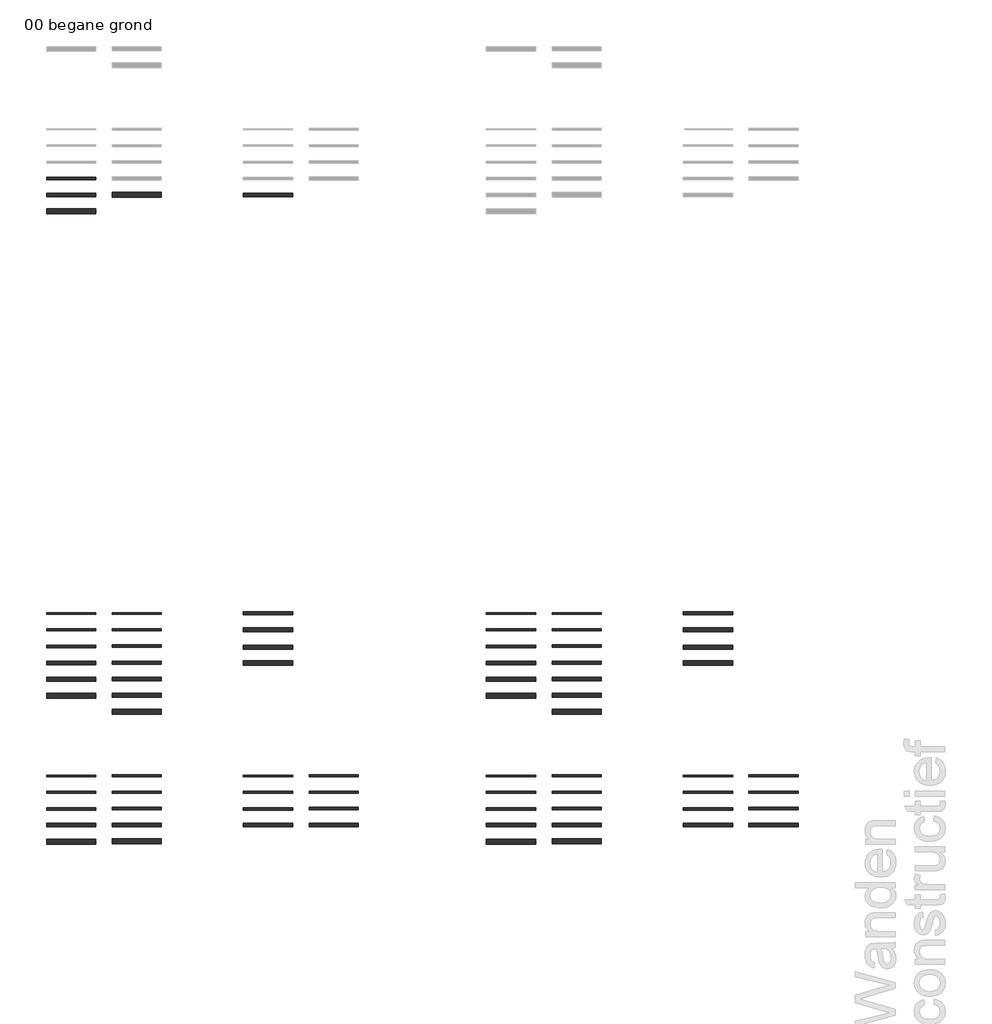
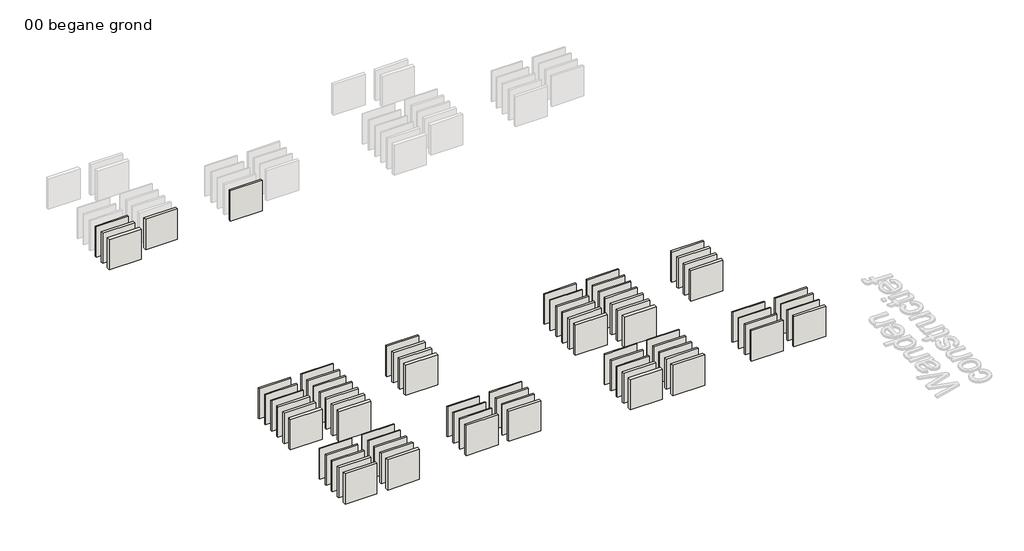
# One storey, part 1 of 4: 75 walls.
"""IFC4 building model written with IfcOpenShell, lengths in millimetres."""

import ifcopenshell
import ifcopenshell.guid

model = None  # the IFC model being written
_history = None  # IfcOwnerHistory: only IFC2X3 demands one
_inside = {}  # id of a spatial element -> (the spatial element, [elements in it])
_under = {}  # id of a project, library or spatial element -> (it, [spatial elements below it])
_declared = {}  # id of a project -> (the project, [libraries it declares])
_typed = {}  # id of a type object -> (the type object, [elements of that type])
_made_of = {}  # id of a material, layer set ... -> (it, [elements and type objects made of it])


def new_model(schema):
    """Start an empty IFC model of exactly this schema.

    Asked for "IFC4X3", IfcOpenShell would pick the latest addendum, in which some entities
    have other attributes; the version numbers below select the first issue.
    IFC2X3 requires an IfcOwnerHistory on every rooted entity: one is made here for all.
    """
    global model, _history
    if schema == "IFC4X3":
        model = ifcopenshell.file(schema_version=(4, 3, 0, 0))
    else:
        model = ifcopenshell.file(schema=schema)
    _inside.clear()
    _under.clear()
    _declared.clear()
    _typed.clear()
    _made_of.clear()
    _history = None
    if model.schema == "IFC2X3":
        org = make("IfcOrganization", Name="unknown")
        user = make(
            "IfcPersonAndOrganization",
            ThePerson=make("IfcPerson", FamilyName="unknown"),
            TheOrganization=org,
        )
        app = make(
            "IfcApplication",
            ApplicationDeveloper=org,
            Version="unknown",
            ApplicationFullName="unknown",
            ApplicationIdentifier="unknown",
        )
        _history = make(
            "IfcOwnerHistory",
            OwningUser=user,
            OwningApplication=app,
            ChangeAction="ADDED",
            CreationDate=0,
        )
    return model


def make(cls, **values):
    """One entity of the class cls with the attributes given. An attribute that is None is left unset."""
    return model.create_entity(
        cls, **{name: value for name, value in values.items() if value is not None}
    )


def rooted(cls, **values):
    """An entity with a GlobalId (a new one), such as an element, a storey or a relation."""
    return make(cls, GlobalId=ifcopenshell.guid.new(), OwnerHistory=_history, **values)


def si_unit(unit_type, name, prefix=None):
    """IfcSIUnit, for example si_unit("LENGTHUNIT", "METRE", prefix="MILLI")."""
    return make("IfcSIUnit", UnitType=unit_type, Prefix=prefix, Name=name)


def assignment(units):
    """IfcUnitAssignment: the units of a project."""
    return None if units is None else make("IfcUnitAssignment", Units=units)


def point(xyz):
    """IfcCartesianPoint."""
    return None if xyz is None else make("IfcCartesianPoint", Coordinates=xyz)


def direction(xyz):
    """IfcDirection."""
    return None if xyz is None else make("IfcDirection", DirectionRatios=xyz)


def frame(location, z_axis=None, x_axis=None):
    """IfcAxis2Placement3D, a coordinate frame: its origin and axes. An axis left out is left unset."""
    return make(
        "IfcAxis2Placement3D",
        Location=point(location),
        Axis=direction(z_axis),
        RefDirection=direction(x_axis),
    )


def origin():
    """The frame at (0, 0, 0) with its axes left unset."""
    return frame((0.0, 0.0, 0.0))


def origin_with_axes():
    """The frame at (0, 0, 0) with the z axis (0, 0, 1) and the x axis (1, 0, 0) written out."""
    return frame((0.0, 0.0, 0.0), z_axis=(0.0, 0.0, 1.0), x_axis=(1.0, 0.0, 0.0))


def place(relative_to, where):
    """IfcLocalPlacement: puts the frame where relative to a parent placement (None: the world)."""
    return make(
        "IfcLocalPlacement", PlacementRelTo=relative_to, RelativePlacement=where
    )


def context(
    kind, dimensions, precision=None, world=None, true_north=None, identifier=None
):
    """IfcGeometricRepresentationContext, for example the 3D "Model" context."""
    return make(
        "IfcGeometricRepresentationContext",
        ContextIdentifier=identifier,
        ContextType=kind,
        CoordinateSpaceDimension=dimensions,
        Precision=precision,
        WorldCoordinateSystem=world,
        TrueNorth=true_north,
    )


def project(units=None, contexts=None):
    """IfcProject with its units and contexts."""
    return rooted(
        "IfcProject",
        Name="project",
        RepresentationContexts=contexts,
        UnitsInContext=assignment(units),
    )


def spatial(cls, under=None, at=None, **own):
    """A site, building, storey or space (cls), placed at a placement, below another one or the project."""
    s = rooted(cls, ObjectPlacement=at, **own)
    if under is not None:
        _under.setdefault(under.id(), (under, []))[1].append(s)
    return s


def polyline(points):
    """IfcPolyline through the points."""
    return make("IfcPolyline", Points=[point(p) for p in points])


def outline(outer, holes=None, kind="AREA"):
    """IfcArbitraryClosedProfileDef: a profile drawn as a closed curve; with holes, ...WithVoids."""
    if holes is None:
        return make("IfcArbitraryClosedProfileDef", ProfileType=kind, OuterCurve=outer)
    return make(
        "IfcArbitraryProfileDefWithVoids",
        ProfileType=kind,
        OuterCurve=outer,
        InnerCurves=holes,
    )


def extrude(swept, where, along, depth):
    """IfcExtrudedAreaSolid: the profile swept, set in the frame where, extruded along a direction by depth."""
    return make(
        "IfcExtrudedAreaSolid",
        SweptArea=swept,
        Position=where,
        ExtrudedDirection=direction(along),
        Depth=depth,
    )


def shape(context_of_items, identifier, shape_type, items):
    """IfcShapeRepresentation: the items that make up one representation, for example the "Body"."""
    return make(
        "IfcShapeRepresentation",
        ContextOfItems=context_of_items,
        RepresentationIdentifier=identifier,
        RepresentationType=shape_type,
        Items=items,
    )


def made_of(thing, what):
    """Note that an element or type object is made of a material, layer set ...; save() writes the relation."""
    if what is not None:
        _made_of.setdefault(what.id(), (what, []))[1].append(thing)
    return thing


def element(
    cls,
    number,
    at=None,
    inside=None,
    cuts=None,
    type_object=None,
    material=None,
    context=None,
    identifier="Body",
    shape_type=None,
    held_by="IfcProductDefinitionShape",
    body=None,
    shapes=None,
    **own,
):
    """One element of the class cls, such as IfcWall. Its Tag is "e" and its number.

    at: its placement. inside: the storey or other place that contains it. cuts: it is an
    opening in that element (IfcRelVoidsElement). A single representation is given by context,
    identifier, shape_type and body (its items); several are given by shapes. held_by: the class
    of the entity that holds the representations. save() writes the other relations.
    """
    e = rooted(cls, Tag="e%d" % number, ObjectPlacement=at, **own)
    if body is not None:
        shapes = [shape(context, identifier, shape_type, body)]
    if shapes is not None:
        e.Representation = make(held_by, Representations=shapes)
    if inside is not None:
        _inside.setdefault(inside.id(), (inside, []))[1].append(e)
    if cuts is not None:
        rooted(
            "IfcRelVoidsElement", RelatingBuildingElement=cuts, RelatedOpeningElement=e
        )
    if type_object is not None:
        _typed.setdefault(type_object.id(), (type_object, []))[1].append(e)
    return made_of(e, material)


def aggregate(whole, parts):
    """IfcRelAggregates: a whole, such as a stair, and the parts it consists of."""
    return rooted("IfcRelAggregates", RelatingObject=whole, RelatedObjects=parts)


def save(model, path):
    """Write the relations noted so far, then the file.

    IfcRelAggregates (storeys below a building ...), IfcRelContainedInSpatialStructure (elements
    in a storey), IfcRelDefinesByType, IfcRelAssociatesMaterial and IfcRelDeclares: one each for
    every whole, place, type object, material and project.
    """
    for whole, parts in _under.values():
        aggregate(whole, parts)
    for where, things in _inside.values():
        rooted(
            "IfcRelContainedInSpatialStructure",
            RelatedElements=things,
            RelatingStructure=where,
        )
    for kind, things in _typed.values():
        rooted("IfcRelDefinesByType", RelatedObjects=things, RelatingType=kind)
    for what, things in _made_of.values():
        rooted("IfcRelAssociatesMaterial", RelatedObjects=things, RelatingMaterial=what)
    for by, libraries in _declared.values():
        rooted("IfcRelDeclares", RelatingContext=by, RelatedDefinitions=libraries)
    model.write(path)


model = new_model("IFC4")

# Units and contexts
model_context = context("Model", 3, world=origin())
ifc_project = project(units=[si_unit("LENGTHUNIT", "METRE", prefix="MILLI")], contexts=[model_context])

# Site, building, storey
site = spatial("IfcSite", under=ifc_project)
building = spatial("IfcBuilding", under=site)
storey = spatial("IfcBuildingStorey", under=building, Name="00 begane grond", Elevation=0.0)

# Walls
placement = place(None, origin())
element("IfcWall", 1, ObjectType="21.10_150mm kalkzandsteen lijmblok CS12", at=placement, inside=storey, context=model_context, shape_type="SweptSolid", body=[
    extrude(outline(polyline([(5468.8995272, -7910.3538453), (2468.8995272, -7910.3538453), (2468.8995272, -7760.3538453), (5468.8995272, -7760.3538453), (5468.8995272, -7910.3538453)])), origin_with_axes(), (0.0, 0.0, 1.0), 3000.0),
])
element("IfcWall", 2, ObjectType="21.10_214mm kalkzandsteen lijmblok CS12", at=placement, inside=storey, context=model_context, shape_type="SweptSolid", body=[
    extrude(outline(polyline([(5468.8995272, -8942.3538453), (2468.8995272, -8942.3538453), (2468.8995272, -8728.3538453), (5468.8995272, -8728.3538453), (5468.8995272, -8942.3538453)])), origin_with_axes(), (0.0, 0.0, 1.0), 3000.0),
])
element("IfcWall", 3, ObjectType="21.10_300mm kalkzandsteen lijmblok CS12", at=placement, inside=storey, context=model_context, shape_type="SweptSolid", body=[
    extrude(outline(polyline([(5468.8995272, -9985.3538453), (2468.8995272, -9985.3538453), (2468.8995272, -9685.3538453), (5468.8995272, -9685.3538453), (5468.8995272, -9985.3538453)])), origin_with_axes(), (0.0, 0.0, 1.0), 3000.0),
])
element("IfcWall", 4, ObjectType="21.10_300mm kalkzandsteen lijmblok CS20", at=placement, inside=storey, context=model_context, shape_type="SweptSolid", body=[
    extrude(outline(polyline([(9468.8995272, -8985.3538453), (6468.8995272, -8985.3538453), (6468.8995272, -8685.3538453), (9468.8995272, -8685.3538453), (9468.8995272, -8985.3538453)])), origin_with_axes(), (0.0, 0.0, 1.0), 3000.0),
])
element("IfcWall", 5, ObjectType="21.10_214mm kalkzandsteen vellingblok CS12", at=placement, inside=storey, context=model_context, shape_type="SweptSolid", body=[
    extrude(outline(polyline([(17468.8995272, -8942.3538453), (14468.8995272, -8942.3538453), (14468.8995272, -8728.3538453), (17468.8995272, -8728.3538453), (17468.8995272, -8942.3538453)])), origin_with_axes(), (0.0, 0.0, 1.0), 3000.0),
])
element("IfcWall", 6, ObjectType="21.20_175mm kalkzandsteen hoogbouwelement CS36", at=placement, inside=storey, context=model_context, shape_type="SweptSolid", body=[
    extrude(outline(polyline([(17468.8995272, -34422.8538453), (14468.8995272, -34422.8538453), (14468.8995272, -34247.8538453), (17468.8995272, -34247.8538453), (17468.8995272, -34422.8538453)])), origin_with_axes(), (0.0, 0.0, 1.0), 3000.0),
])
element("IfcWall", 7, ObjectType="21.20_214mm kalkzandsteen hoogbouwelement CS36", at=placement, inside=storey, context=model_context, shape_type="SweptSolid", body=[
    extrude(outline(polyline([(17468.8995272, -35442.3538453), (14468.8995272, -35442.3538453), (14468.8995272, -35228.3538453), (17468.8995272, -35228.3538453), (17468.8995272, -35442.3538453)])), origin_with_axes(), (0.0, 0.0, 1.0), 3000.0),
])
element("IfcWall", 8, ObjectType="21.20_250mm kalkzandsteen hoogbouwelement CS36", at=placement, inside=storey, context=model_context, shape_type="SweptSolid", body=[
    extrude(outline(polyline([(17468.8995272, -36528.3538453), (14468.8995272, -36528.3538453), (14468.8995272, -36278.3538453), (17468.8995272, -36278.3538453), (17468.8995272, -36528.3538453)])), origin_with_axes(), (0.0, 0.0, 1.0), 3000.0),
])
element("IfcWall", 9, ObjectType="21.20_100mm kalkzandsteen lijmblok CS12", at=placement, inside=storey, context=model_context, shape_type="SweptSolid", body=[
    extrude(outline(polyline([(5468.8995272, -44295.3538453), (2468.8995272, -44295.3538453), (2468.8995272, -44195.3538453), (5468.8995272, -44195.3538453), (5468.8995272, -44295.3538453)])), origin_with_axes(), (0.0, 0.0, 1.0), 3000.0),
])
element("IfcWall", 10, ObjectType="21.20_120mm kalkzandsteen lijmblok CS12", at=placement, inside=storey, context=model_context, shape_type="SweptSolid", body=[
    extrude(outline(polyline([(5468.8995272, -45305.3538453), (2468.8995272, -45305.3538453), (2468.8995272, -45185.3538453), (5468.8995272, -45185.3538453), (5468.8995272, -45305.3538453)])), origin_with_axes(), (0.0, 0.0, 1.0), 3000.0),
])
element("IfcWall", 11, ObjectType="21.20_150mm kalkzandsteen lijmblok CS12", at=placement, inside=storey, context=model_context, shape_type="SweptSolid", body=[
    extrude(outline(polyline([(5468.8995272, -46320.3538453), (2468.8995272, -46320.3538453), (2468.8995272, -46170.3538453), (5468.8995272, -46170.3538453), (5468.8995272, -46320.3538453)])), origin_with_axes(), (0.0, 0.0, 1.0), 3000.0),
])
element("IfcWall", 12, ObjectType="21.20_214mm kalkzandsteen lijmblok CS12", at=placement, inside=storey, context=model_context, shape_type="SweptSolid", body=[
    extrude(outline(polyline([(5468.8995272, -47352.3538453), (2468.8995272, -47352.3538453), (2468.8995272, -47138.3538453), (5468.8995272, -47138.3538453), (5468.8995272, -47352.3538453)])), origin_with_axes(), (0.0, 0.0, 1.0), 3000.0),
])
element("IfcWall", 13, ObjectType="21.20_300mm kalkzandsteen lijmblok CS12", at=placement, inside=storey, context=model_context, shape_type="SweptSolid", body=[
    extrude(outline(polyline([(5468.8995272, -48395.3538453), (2468.8995272, -48395.3538453), (2468.8995272, -48095.3538453), (5468.8995272, -48095.3538453), (5468.8995272, -48395.3538453)])), origin_with_axes(), (0.0, 0.0, 1.0), 3000.0),
])
element("IfcWall", 14, ObjectType="21.20_100mm kalkzandsteen lijmblok CS20", at=placement, inside=storey, context=model_context, shape_type="SweptSolid", body=[
    extrude(outline(polyline([(9468.8995272, -44285.3538453), (6468.8995272, -44285.3538453), (6468.8995272, -44185.3538453), (9468.8995272, -44185.3538453), (9468.8995272, -44285.3538453)])), origin_with_axes(), (0.0, 0.0, 1.0), 3000.0),
])
element("IfcWall", 15, ObjectType="21.20_120mm kalkzandsteen lijmblok CS20", at=placement, inside=storey, context=model_context, shape_type="SweptSolid", body=[
    extrude(outline(polyline([(9468.8995272, -45295.3538453), (6468.8995272, -45295.3538453), (6468.8995272, -45175.3538453), (9468.8995272, -45175.3538453), (9468.8995272, -45295.3538453)])), origin_with_axes(), (0.0, 0.0, 1.0), 3000.0),
])
element("IfcWall", 16, ObjectType="21.20_150mm kalkzandsteen lijmblok CS20", at=placement, inside=storey, context=model_context, shape_type="SweptSolid", body=[
    extrude(outline(polyline([(9468.8995272, -46310.3538453), (6468.8995272, -46310.3538453), (6468.8995272, -46160.3538453), (9468.8995272, -46160.3538453), (9468.8995272, -46310.3538453)])), origin_with_axes(), (0.0, 0.0, 1.0), 3000.0),
])
element("IfcWall", 17, ObjectType="21.20_214mm kalkzandsteen lijmblok CS20", at=placement, inside=storey, context=model_context, shape_type="SweptSolid", body=[
    extrude(outline(polyline([(9468.8995272, -47342.3538453), (6468.8995272, -47342.3538453), (6468.8995272, -47128.3538453), (9468.8995272, -47128.3538453), (9468.8995272, -47342.3538453)])), origin_with_axes(), (0.0, 0.0, 1.0), 3000.0),
])
element("IfcWall", 18, ObjectType="21.20_300mm kalkzandsteen lijmblok CS20", at=placement, inside=storey, context=model_context, shape_type="SweptSolid", body=[
    extrude(outline(polyline([(9468.8995272, -48385.3538453), (6468.8995272, -48385.3538453), (6468.8995272, -48085.3538453), (9468.8995272, -48085.3538453), (9468.8995272, -48385.3538453)])), origin_with_axes(), (0.0, 0.0, 1.0), 3000.0),
])
element("IfcWall", 19, ObjectType="21.20_100mm kalkzandsteen vellingblok CS12", at=placement, inside=storey, context=model_context, shape_type="SweptSolid", body=[
    extrude(outline(polyline([(17468.8995272, -44295.3538453), (14468.8995272, -44295.3538453), (14468.8995272, -44195.3538453), (17468.8995272, -44195.3538453), (17468.8995272, -44295.3538453)])), origin_with_axes(), (0.0, 0.0, 1.0), 3000.0),
])
element("IfcWall", 20, ObjectType="21.20_120mm kalkzandsteen vellingblok CS12", at=placement, inside=storey, context=model_context, shape_type="SweptSolid", body=[
    extrude(outline(polyline([(17468.8995272, -45305.3538453), (14468.8995272, -45305.3538453), (14468.8995272, -45185.3538453), (17468.8995272, -45185.3538453), (17468.8995272, -45305.3538453)])), origin_with_axes(), (0.0, 0.0, 1.0), 3000.0),
])
element("IfcWall", 21, ObjectType="21.20_150mm kalkzandsteen vellingblok CS12", at=placement, inside=storey, context=model_context, shape_type="SweptSolid", body=[
    extrude(outline(polyline([(17468.8995272, -46320.3538453), (14468.8995272, -46320.3538453), (14468.8995272, -46170.3538453), (17468.8995272, -46170.3538453), (17468.8995272, -46320.3538453)])), origin_with_axes(), (0.0, 0.0, 1.0), 3000.0),
])
element("IfcWall", 22, ObjectType="21.20_214mm kalkzandsteen vellingblok CS12", at=placement, inside=storey, context=model_context, shape_type="SweptSolid", body=[
    extrude(outline(polyline([(17468.8995272, -47352.3538453), (14468.8995272, -47352.3538453), (14468.8995272, -47138.3538453), (17468.8995272, -47138.3538453), (17468.8995272, -47352.3538453)])), origin_with_axes(), (0.0, 0.0, 1.0), 3000.0),
])
element("IfcWall", 23, ObjectType="21.20_100mm kalkzandsteen vellingblok CS20", at=placement, inside=storey, context=model_context, shape_type="SweptSolid", body=[
    extrude(outline(polyline([(21468.8995272, -44285.3538453), (18468.8995272, -44285.3538453), (18468.8995272, -44185.3538453), (21468.8995272, -44185.3538453), (21468.8995272, -44285.3538453)])), origin_with_axes(), (0.0, 0.0, 1.0), 3000.0),
])
element("IfcWall", 24, ObjectType="21.20_120mm kalkzandsteen vellingblok CS20", at=placement, inside=storey, context=model_context, shape_type="SweptSolid", body=[
    extrude(outline(polyline([(21468.8995272, -45295.3538453), (18468.8995272, -45295.3538453), (18468.8995272, -45175.3538453), (21468.8995272, -45175.3538453), (21468.8995272, -45295.3538453)])), origin_with_axes(), (0.0, 0.0, 1.0), 3000.0),
])
element("IfcWall", 25, ObjectType="21.20_150mm kalkzandsteen vellingblok CS20", at=placement, inside=storey, context=model_context, shape_type="SweptSolid", body=[
    extrude(outline(polyline([(21468.8995272, -46310.3538453), (18468.8995272, -46310.3538453), (18468.8995272, -46160.3538453), (21468.8995272, -46160.3538453), (21468.8995272, -46310.3538453)])), origin_with_axes(), (0.0, 0.0, 1.0), 3000.0),
])
element("IfcWall", 26, ObjectType="21.20_214mm kalkzandsteen vellingblok CS20", at=placement, inside=storey, context=model_context, shape_type="SweptSolid", body=[
    extrude(outline(polyline([(21468.8995272, -47342.3538453), (18468.8995272, -47342.3538453), (18468.8995272, -47128.3538453), (21468.8995272, -47128.3538453), (21468.8995272, -47342.3538453)])), origin_with_axes(), (0.0, 0.0, 1.0), 3000.0),
])
element("IfcWall", 27, ObjectType="21.20_300mm kalkzandsteen hoogbouwelement CS36", at=placement, inside=storey, context=model_context, shape_type="SweptSolid", body=[
    extrude(outline(polyline([(17468.8995272, -37510.3538453), (14468.8995272, -37510.3538453), (14468.8995272, -37210.3538453), (17468.8995272, -37210.3538453), (17468.8995272, -37510.3538453)])), origin_with_axes(), (0.0, 0.0, 1.0), 3000.0),
])
element("IfcWall", 28, ObjectType="22.20_175mm kalkzandsteen hoogbouwelement CS36", at=placement, inside=storey, context=model_context, shape_type="SweptSolid", body=[
    extrude(outline(polyline([(44268.8995272, -34422.8538453), (41268.8995272, -34422.8538453), (41268.8995272, -34247.8538453), (44268.8995272, -34247.8538453), (44268.8995272, -34422.8538453)])), origin_with_axes(), (0.0, 0.0, 1.0), 3000.0),
])
element("IfcWall", 29, ObjectType="22.20_214mm kalkzandsteen hoogbouwelement CS36", at=placement, inside=storey, context=model_context, shape_type="SweptSolid", body=[
    extrude(outline(polyline([(44268.8995272, -35442.3538453), (41268.8995272, -35442.3538453), (41268.8995272, -35228.3538453), (44268.8995272, -35228.3538453), (44268.8995272, -35442.3538453)])), origin_with_axes(), (0.0, 0.0, 1.0), 3000.0),
])
element("IfcWall", 30, ObjectType="22.20_250mm kalkzandsteen hoogbouwelement CS36", at=placement, inside=storey, context=model_context, shape_type="SweptSolid", body=[
    extrude(outline(polyline([(44268.8995272, -36528.3538453), (41268.8995272, -36528.3538453), (41268.8995272, -36278.3538453), (44268.8995272, -36278.3538453), (44268.8995272, -36528.3538453)])), origin_with_axes(), (0.0, 0.0, 1.0), 3000.0),
])
element("IfcWall", 31, ObjectType="22.20_100mm kalkzandsteen lijmblok CS12", at=placement, inside=storey, context=model_context, shape_type="SweptSolid", body=[
    extrude(outline(polyline([(32268.8995272, -44295.3538453), (29268.8995272, -44295.3538453), (29268.8995272, -44195.3538453), (32268.8995272, -44195.3538453), (32268.8995272, -44295.3538453)])), origin_with_axes(), (0.0, 0.0, 1.0), 3000.0),
])
element("IfcWall", 32, ObjectType="22.20_120mm kalkzandsteen lijmblok CS12", at=placement, inside=storey, context=model_context, shape_type="SweptSolid", body=[
    extrude(outline(polyline([(32268.8995272, -45305.3538453), (29268.8995272, -45305.3538453), (29268.8995272, -45185.3538453), (32268.8995272, -45185.3538453), (32268.8995272, -45305.3538453)])), origin_with_axes(), (0.0, 0.0, 1.0), 3000.0),
])
element("IfcWall", 33, ObjectType="22.20_150mm kalkzandsteen lijmblok CS12", at=placement, inside=storey, context=model_context, shape_type="SweptSolid", body=[
    extrude(outline(polyline([(32268.8995272, -46320.3538453), (29268.8995272, -46320.3538453), (29268.8995272, -46170.3538453), (32268.8995272, -46170.3538453), (32268.8995272, -46320.3538453)])), origin_with_axes(), (0.0, 0.0, 1.0), 3000.0),
])
element("IfcWall", 34, ObjectType="22.20_214mm kalkzandsteen lijmblok CS12", at=placement, inside=storey, context=model_context, shape_type="SweptSolid", body=[
    extrude(outline(polyline([(32268.8995272, -47352.3538453), (29268.8995272, -47352.3538453), (29268.8995272, -47138.3538453), (32268.8995272, -47138.3538453), (32268.8995272, -47352.3538453)])), origin_with_axes(), (0.0, 0.0, 1.0), 3000.0),
])
element("IfcWall", 35, ObjectType="22.20_300mm kalkzandsteen lijmblok CS12", at=placement, inside=storey, context=model_context, shape_type="SweptSolid", body=[
    extrude(outline(polyline([(32268.8995272, -48395.3538453), (29268.8995272, -48395.3538453), (29268.8995272, -48095.3538453), (32268.8995272, -48095.3538453), (32268.8995272, -48395.3538453)])), origin_with_axes(), (0.0, 0.0, 1.0), 3000.0),
])
element("IfcWall", 36, ObjectType="22.20_100mm kalkzandsteen lijmblok CS20", at=placement, inside=storey, context=model_context, shape_type="SweptSolid", body=[
    extrude(outline(polyline([(36268.8995272, -44285.3538453), (33268.8995272, -44285.3538453), (33268.8995272, -44185.3538453), (36268.8995272, -44185.3538453), (36268.8995272, -44285.3538453)])), origin_with_axes(), (0.0, 0.0, 1.0), 3000.0),
])
element("IfcWall", 37, ObjectType="22.20_120mm kalkzandsteen lijmblok CS20", at=placement, inside=storey, context=model_context, shape_type="SweptSolid", body=[
    extrude(outline(polyline([(36268.8995272, -45295.3538453), (33268.8995272, -45295.3538453), (33268.8995272, -45175.3538453), (36268.8995272, -45175.3538453), (36268.8995272, -45295.3538453)])), origin_with_axes(), (0.0, 0.0, 1.0), 3000.0),
])
element("IfcWall", 38, ObjectType="22.20_150mm kalkzandsteen lijmblok CS20", at=placement, inside=storey, context=model_context, shape_type="SweptSolid", body=[
    extrude(outline(polyline([(36268.8995272, -46310.3538453), (33268.8995272, -46310.3538453), (33268.8995272, -46160.3538453), (36268.8995272, -46160.3538453), (36268.8995272, -46310.3538453)])), origin_with_axes(), (0.0, 0.0, 1.0), 3000.0),
])
element("IfcWall", 39, ObjectType="22.20_214mm kalkzandsteen lijmblok CS20", at=placement, inside=storey, context=model_context, shape_type="SweptSolid", body=[
    extrude(outline(polyline([(36268.8995272, -47342.3538453), (33268.8995272, -47342.3538453), (33268.8995272, -47128.3538453), (36268.8995272, -47128.3538453), (36268.8995272, -47342.3538453)])), origin_with_axes(), (0.0, 0.0, 1.0), 3000.0),
])
element("IfcWall", 40, ObjectType="22.20_300mm kalkzandsteen lijmblok CS20", at=placement, inside=storey, context=model_context, shape_type="SweptSolid", body=[
    extrude(outline(polyline([(36268.8995272, -48385.3538453), (33268.8995272, -48385.3538453), (33268.8995272, -48085.3538453), (36268.8995272, -48085.3538453), (36268.8995272, -48385.3538453)])), origin_with_axes(), (0.0, 0.0, 1.0), 3000.0),
])
element("IfcWall", 41, ObjectType="22.20_100mm kalkzandsteen vellingblok CS12", at=placement, inside=storey, context=model_context, shape_type="SweptSolid", body=[
    extrude(outline(polyline([(44268.8995272, -44295.3538453), (41268.8995272, -44295.3538453), (41268.8995272, -44195.3538453), (44268.8995272, -44195.3538453), (44268.8995272, -44295.3538453)])), origin_with_axes(), (0.0, 0.0, 1.0), 3000.0),
])
element("IfcWall", 42, ObjectType="22.20_120mm kalkzandsteen vellingblok CS12", at=placement, inside=storey, context=model_context, shape_type="SweptSolid", body=[
    extrude(outline(polyline([(44268.8995272, -45305.3538453), (41268.8995272, -45305.3538453), (41268.8995272, -45185.3538453), (44268.8995272, -45185.3538453), (44268.8995272, -45305.3538453)])), origin_with_axes(), (0.0, 0.0, 1.0), 3000.0),
])
element("IfcWall", 43, ObjectType="22.20_150mm kalkzandsteen vellingblok CS12", at=placement, inside=storey, context=model_context, shape_type="SweptSolid", body=[
    extrude(outline(polyline([(44268.8995272, -46320.3538453), (41268.8995272, -46320.3538453), (41268.8995272, -46170.3538453), (44268.8995272, -46170.3538453), (44268.8995272, -46320.3538453)])), origin_with_axes(), (0.0, 0.0, 1.0), 3000.0),
])
element("IfcWall", 44, ObjectType="22.20_214mm kalkzandsteen vellingblok CS12", at=placement, inside=storey, context=model_context, shape_type="SweptSolid", body=[
    extrude(outline(polyline([(44268.8995272, -47352.3538453), (41268.8995272, -47352.3538453), (41268.8995272, -47138.3538453), (44268.8995272, -47138.3538453), (44268.8995272, -47352.3538453)])), origin_with_axes(), (0.0, 0.0, 1.0), 3000.0),
])
element("IfcWall", 45, ObjectType="22.20_100mm kalkzandsteen vellingblok CS20", at=placement, inside=storey, context=model_context, shape_type="SweptSolid", body=[
    extrude(outline(polyline([(48268.8995272, -44285.3538453), (45268.8995272, -44285.3538453), (45268.8995272, -44185.3538453), (48268.8995272, -44185.3538453), (48268.8995272, -44285.3538453)])), origin_with_axes(), (0.0, 0.0, 1.0), 3000.0),
])
element("IfcWall", 46, ObjectType="22.20_120mm kalkzandsteen vellingblok CS20", at=placement, inside=storey, context=model_context, shape_type="SweptSolid", body=[
    extrude(outline(polyline([(48268.8995272, -45295.3538453), (45268.8995272, -45295.3538453), (45268.8995272, -45175.3538453), (48268.8995272, -45175.3538453), (48268.8995272, -45295.3538453)])), origin_with_axes(), (0.0, 0.0, 1.0), 3000.0),
])
element("IfcWall", 47, ObjectType="22.20_150mm kalkzandsteen vellingblok CS20", at=placement, inside=storey, context=model_context, shape_type="SweptSolid", body=[
    extrude(outline(polyline([(48268.8995272, -46310.3538453), (45268.8995272, -46310.3538453), (45268.8995272, -46160.3538453), (48268.8995272, -46160.3538453), (48268.8995272, -46310.3538453)])), origin_with_axes(), (0.0, 0.0, 1.0), 3000.0),
])
element("IfcWall", 48, ObjectType="22.20_214mm kalkzandsteen vellingblok CS20", at=placement, inside=storey, context=model_context, shape_type="SweptSolid", body=[
    extrude(outline(polyline([(48268.8995272, -47342.3538453), (45268.8995272, -47342.3538453), (45268.8995272, -47128.3538453), (48268.8995272, -47128.3538453), (48268.8995272, -47342.3538453)])), origin_with_axes(), (0.0, 0.0, 1.0), 3000.0),
])
element("IfcWall", 49, ObjectType="22.20_300mm kalkzandsteen hoogbouwelement CS36", at=placement, inside=storey, context=model_context, shape_type="SweptSolid", body=[
    extrude(outline(polyline([(44268.8995272, -37510.3538453), (41268.8995272, -37510.3538453), (41268.8995272, -37210.3538453), (44268.8995272, -37210.3538453), (44268.8995272, -37510.3538453)])), origin_with_axes(), (0.0, 0.0, 1.0), 3000.0),
])
element("IfcWall", 50, ObjectType="21.20_100mm kalkzandsteen element CS12", at=placement, inside=storey, context=model_context, shape_type="SweptSolid", body=[
    extrude(outline(polyline([(5468.8995272, -34395.3538453), (2468.8995272, -34395.3538453), (2468.8995272, -34295.3538453), (5468.8995272, -34295.3538453), (5468.8995272, -34395.3538453)])), origin_with_axes(), (0.0, 0.0, 1.0), 3000.0),
])
element("IfcWall", 51, ObjectType="21.20_100mm kalkzandsteen element CS20", at=placement, inside=storey, context=model_context, shape_type="SweptSolid", body=[
    extrude(outline(polyline([(9468.8995272, -34385.3538453), (6468.8995272, -34385.3538453), (6468.8995272, -34285.3538453), (9468.8995272, -34285.3538453), (9468.8995272, -34385.3538453)])), origin_with_axes(), (0.0, 0.0, 1.0), 3000.0),
])
element("IfcWall", 52, ObjectType="21.20_120mm kalkzandsteen element CS12", at=placement, inside=storey, context=model_context, shape_type="SweptSolid", body=[
    extrude(outline(polyline([(5468.8995272, -35405.3538453), (2468.8995272, -35405.3538453), (2468.8995272, -35285.3538453), (5468.8995272, -35285.3538453), (5468.8995272, -35405.3538453)])), origin_with_axes(), (0.0, 0.0, 1.0), 3000.0),
])
element("IfcWall", 53, ObjectType="21.20_120mm kalkzandsteen element CS20", at=placement, inside=storey, context=model_context, shape_type="SweptSolid", body=[
    extrude(outline(polyline([(9468.8995272, -35395.3538453), (6468.8995272, -35395.3538453), (6468.8995272, -35275.3538453), (9468.8995272, -35275.3538453), (9468.8995272, -35395.3538453)])), origin_with_axes(), (0.0, 0.0, 1.0), 3000.0),
])
element("IfcWall", 54, ObjectType="21.20_150mm kalkzandsteen element CS12", at=placement, inside=storey, context=model_context, shape_type="SweptSolid", body=[
    extrude(outline(polyline([(5468.8995272, -36429.8538453), (2468.8995272, -36429.8538453), (2468.8995272, -36279.8538453), (5468.8995272, -36279.8538453), (5468.8995272, -36429.8538453)])), origin_with_axes(), (0.0, 0.0, 1.0), 3000.0),
])
element("IfcWall", 55, ObjectType="21.20_150mm kalkzandsteen element CS20", at=placement, inside=storey, context=model_context, shape_type="SweptSolid", body=[
    extrude(outline(polyline([(9468.8995272, -36410.3538453), (6468.8995272, -36410.3538453), (6468.8995272, -36260.3538453), (9468.8995272, -36260.3538453), (9468.8995272, -36410.3538453)])), origin_with_axes(), (0.0, 0.0, 1.0), 3000.0),
])
element("IfcWall", 56, ObjectType="21.20_175mm kalkzandsteen element CS20", at=placement, inside=storey, context=model_context, shape_type="SweptSolid", body=[
    extrude(outline(polyline([(9468.8995272, -37422.8538453), (6468.8995272, -37422.8538453), (6468.8995272, -37247.8538453), (9468.8995272, -37247.8538453), (9468.8995272, -37422.8538453)])), origin_with_axes(), (0.0, 0.0, 1.0), 3000.0),
])
element("IfcWall", 57, ObjectType="21.20_214mm kalkzandsteen element CS12", at=placement, inside=storey, context=model_context, shape_type="SweptSolid", body=[
    extrude(outline(polyline([(5468.8995272, -37455.3538453), (2468.8995272, -37455.3538453), (2468.8995272, -37241.3538453), (5468.8995272, -37241.3538453), (5468.8995272, -37455.3538453)])), origin_with_axes(), (0.0, 0.0, 1.0), 3000.0),
])
element("IfcWall", 58, ObjectType="21.20_214mm kalkzandsteen element CS20", at=placement, inside=storey, context=model_context, shape_type="SweptSolid", body=[
    extrude(outline(polyline([(9468.8995272, -38442.3538453), (6468.8995272, -38442.3538453), (6468.8995272, -38228.3538453), (9468.8995272, -38228.3538453), (9468.8995272, -38442.3538453)])), origin_with_axes(), (0.0, 0.0, 1.0), 3000.0),
])
element("IfcWall", 59, ObjectType="21.20_240mm kalkzandsteen element CS12", at=placement, inside=storey, context=model_context, shape_type="SweptSolid", body=[
    extrude(outline(polyline([(5468.8995272, -38468.3538453), (2468.8995272, -38468.3538453), (2468.8995272, -38228.3538453), (5468.8995272, -38228.3538453), (5468.8995272, -38468.3538453)])), origin_with_axes(), (0.0, 0.0, 1.0), 3000.0),
])
element("IfcWall", 60, ObjectType="21.20_240mm kalkzandsteen element CS20", at=placement, inside=storey, context=model_context, shape_type="SweptSolid", body=[
    extrude(outline(polyline([(9468.8995272, -39455.3538453), (6468.8995272, -39455.3538453), (6468.8995272, -39215.3538453), (9468.8995272, -39215.3538453), (9468.8995272, -39455.3538453)])), origin_with_axes(), (0.0, 0.0, 1.0), 3000.0),
])
element("IfcWall", 61, ObjectType="21.20_300mm kalkzandsteen element CS12", at=placement, inside=storey, context=model_context, shape_type="SweptSolid", body=[
    extrude(outline(polyline([(5468.8995272, -39498.3538453), (2468.8995272, -39498.3538453), (2468.8995272, -39198.3538453), (5468.8995272, -39198.3538453), (5468.8995272, -39498.3538453)])), origin_with_axes(), (0.0, 0.0, 1.0), 3000.0),
])
element("IfcWall", 62, ObjectType="21.20_300mm kalkzandsteen element CS20", at=placement, inside=storey, context=model_context, shape_type="SweptSolid", body=[
    extrude(outline(polyline([(9468.8995272, -40485.3538453), (6468.8995272, -40485.3538453), (6468.8995272, -40185.3538453), (9468.8995272, -40185.3538453), (9468.8995272, -40485.3538453)])), origin_with_axes(), (0.0, 0.0, 1.0), 3000.0),
])
element("IfcWall", 63, ObjectType="22.20_100mm kalkzandsteen element CS12", at=placement, inside=storey, context=model_context, shape_type="SweptSolid", body=[
    extrude(outline(polyline([(32268.8995272, -34395.3538453), (29268.8995272, -34395.3538453), (29268.8995272, -34295.3538453), (32268.8995272, -34295.3538453), (32268.8995272, -34395.3538453)])), origin_with_axes(), (0.0, 0.0, 1.0), 3000.0),
])
element("IfcWall", 64, ObjectType="22.20_100mm kalkzandsteen element CS20", at=placement, inside=storey, context=model_context, shape_type="SweptSolid", body=[
    extrude(outline(polyline([(36268.8995272, -34385.3538453), (33268.8995272, -34385.3538453), (33268.8995272, -34285.3538453), (36268.8995272, -34285.3538453), (36268.8995272, -34385.3538453)])), origin_with_axes(), (0.0, 0.0, 1.0), 3000.0),
])
element("IfcWall", 65, ObjectType="22.20_120mm kalkzandsteen element CS12", at=placement, inside=storey, context=model_context, shape_type="SweptSolid", body=[
    extrude(outline(polyline([(32268.8995272, -35405.3538453), (29268.8995272, -35405.3538453), (29268.8995272, -35285.3538453), (32268.8995272, -35285.3538453), (32268.8995272, -35405.3538453)])), origin_with_axes(), (0.0, 0.0, 1.0), 3000.0),
])
element("IfcWall", 66, ObjectType="22.20_120mm kalkzandsteen element CS20", at=placement, inside=storey, context=model_context, shape_type="SweptSolid", body=[
    extrude(outline(polyline([(36268.8995272, -35395.3538453), (33268.8995272, -35395.3538453), (33268.8995272, -35275.3538453), (36268.8995272, -35275.3538453), (36268.8995272, -35395.3538453)])), origin_with_axes(), (0.0, 0.0, 1.0), 3000.0),
])
element("IfcWall", 67, ObjectType="22.20_150mm kalkzandsteen element CS12", at=placement, inside=storey, context=model_context, shape_type="SweptSolid", body=[
    extrude(outline(polyline([(32268.8995272, -36429.8538453), (29268.8995272, -36429.8538453), (29268.8995272, -36279.8538453), (32268.8995272, -36279.8538453), (32268.8995272, -36429.8538453)])), origin_with_axes(), (0.0, 0.0, 1.0), 3000.0),
])
element("IfcWall", 68, ObjectType="22.20_150mm kalkzandsteen element CS20", at=placement, inside=storey, context=model_context, shape_type="SweptSolid", body=[
    extrude(outline(polyline([(36268.8995272, -36410.3538453), (33268.8995272, -36410.3538453), (33268.8995272, -36260.3538453), (36268.8995272, -36260.3538453), (36268.8995272, -36410.3538453)])), origin_with_axes(), (0.0, 0.0, 1.0), 3000.0),
])
element("IfcWall", 69, ObjectType="22.20_175mm kalkzandsteen element CS20", at=placement, inside=storey, context=model_context, shape_type="SweptSolid", body=[
    extrude(outline(polyline([(36268.8995272, -37422.8538453), (33268.8995272, -37422.8538453), (33268.8995272, -37247.8538453), (36268.8995272, -37247.8538453), (36268.8995272, -37422.8538453)])), origin_with_axes(), (0.0, 0.0, 1.0), 3000.0),
])
element("IfcWall", 70, ObjectType="22.20_214mm kalkzandsteen element CS12", at=placement, inside=storey, context=model_context, shape_type="SweptSolid", body=[
    extrude(outline(polyline([(32268.8995272, -37455.3538453), (29268.8995272, -37455.3538453), (29268.8995272, -37241.3538453), (32268.8995272, -37241.3538453), (32268.8995272, -37455.3538453)])), origin_with_axes(), (0.0, 0.0, 1.0), 3000.0),
])
element("IfcWall", 71, ObjectType="22.20_214mm kalkzandsteen element CS20", at=placement, inside=storey, context=model_context, shape_type="SweptSolid", body=[
    extrude(outline(polyline([(36268.8995272, -38442.3538453), (33268.8995272, -38442.3538453), (33268.8995272, -38228.3538453), (36268.8995272, -38228.3538453), (36268.8995272, -38442.3538453)])), origin_with_axes(), (0.0, 0.0, 1.0), 3000.0),
])
element("IfcWall", 72, ObjectType="22.20_240mm kalkzandsteen element CS12", at=placement, inside=storey, context=model_context, shape_type="SweptSolid", body=[
    extrude(outline(polyline([(32268.8995272, -38468.3538453), (29268.8995272, -38468.3538453), (29268.8995272, -38228.3538453), (32268.8995272, -38228.3538453), (32268.8995272, -38468.3538453)])), origin_with_axes(), (0.0, 0.0, 1.0), 3000.0),
])
element("IfcWall", 73, ObjectType="22.20_240mm kalkzandsteen element CS20", at=placement, inside=storey, context=model_context, shape_type="SweptSolid", body=[
    extrude(outline(polyline([(36268.8995272, -39455.3538453), (33268.8995272, -39455.3538453), (33268.8995272, -39215.3538453), (36268.8995272, -39215.3538453), (36268.8995272, -39455.3538453)])), origin_with_axes(), (0.0, 0.0, 1.0), 3000.0),
])
element("IfcWall", 74, ObjectType="22.20_300mm kalkzandsteen element CS12", at=placement, inside=storey, context=model_context, shape_type="SweptSolid", body=[
    extrude(outline(polyline([(32268.8995272, -39498.3538453), (29268.8995272, -39498.3538453), (29268.8995272, -39198.3538453), (32268.8995272, -39198.3538453), (32268.8995272, -39498.3538453)])), origin_with_axes(), (0.0, 0.0, 1.0), 3000.0),
])
element("IfcWall", 75, ObjectType="22.20_300mm kalkzandsteen element CS20", at=placement, inside=storey, context=model_context, shape_type="SweptSolid", body=[
    extrude(outline(polyline([(36268.8995272, -40485.3538453), (33268.8995272, -40485.3538453), (33268.8995272, -40185.3538453), (36268.8995272, -40185.3538453), (36268.8995272, -40485.3538453)])), origin_with_axes(), (0.0, 0.0, 1.0), 3000.0),
])

save(model, "model.ifc")
